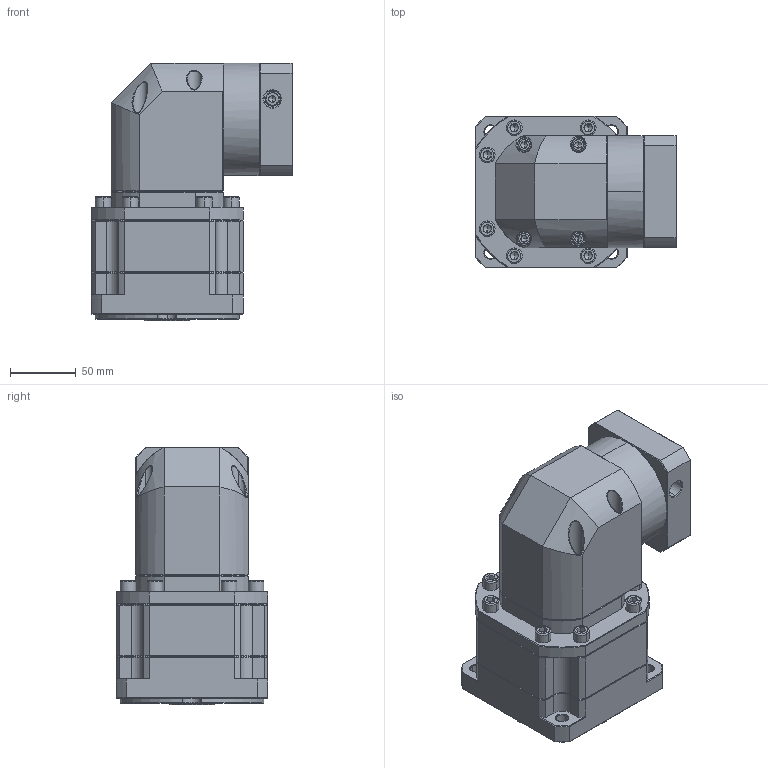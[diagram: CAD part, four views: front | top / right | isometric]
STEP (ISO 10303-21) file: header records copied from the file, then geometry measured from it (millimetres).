
FILE_DESCRIPTION (( 'STEP AP214' ), '1' );
FILE_NAME ('ZBR115A-K25-L2-P2-12.7-73-69.6X69.6-M6.step', '2023-08-26T13:36:01', ( '' ), ( '' ), 'SwSTEP 2.0', 'SolidWorks 2016', '' );
FILE_SCHEMA (( 'AUTOMOTIVE_DESIGN' ));
Length unit declared in the file: millimetre
Products named in the file (1): ZBR115A-K25-L2-P2-12.7-73-69.6X69.6-M6
Bounding box: 152.6 x 115 x 195 mm (x, y, z)
Volume: 1890474.4 mm3; surface area: 174935.1 mm2
Topology: 6 solids, 6 shells, 2540 faces, 6568 edges, 4137 vertices
Faces by surface type: plane 1274, cylinder 444, bspline 442, cone 366, torus 14
Entity records: 131770 total; most frequent: CARTESIAN_POINT 45529, ORIENTED_EDGE 13032, DIRECTION 10501, EDGE_CURVE 6516, LINE 4229, VECTOR 4229, VERTEX_POINT 4137, AXIS2_PLACEMENT_3D 3136
